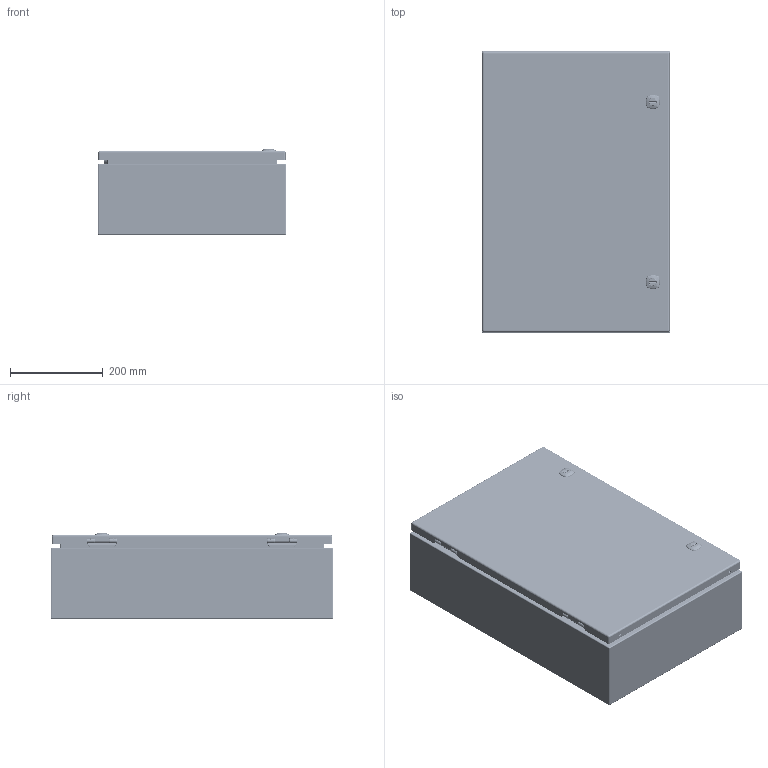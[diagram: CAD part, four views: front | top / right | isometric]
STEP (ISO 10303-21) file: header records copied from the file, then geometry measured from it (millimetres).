
FILE_DESCRIPTION(/* description */ ('5412ES 24" x 16" x 6" Assembly'),/* implementation_level */ '2;1');
FILE_NAME(/* name */ 'C:\Vault_Workspace\Inventor_Dwg\BoxCad\Result\5412ESB241606\e-mail\3D\5412ESB241606.stp',/* time_stamp */ '2022-03-14T17:11:22-04:00',/* author */ ('BoxCad'),/* organization */ (''),/* preprocessor_version */ 'ST-DEVELOPER v18.1',/* originating_system */ 'Autodesk Inventor 2020',/* authorisation */ '');
FILE_SCHEMA (('AUTOMOTIVE_DESIGN { 1 0 10303 214 3 1 1 }'));
Products named in the file (44): 5412ESB241606; 5412ESB241606B; 5412ESB241606B-P; STK-Q-16005; STUD_M6 x 16mm; STK-Q-07610; 881SP2416G; 881SP2416G-P; STK-Q-07310; 5412ESB241606C; 5412ESB241606C-P; 5412ESB241606G; STK-K-09800; STK-K-09800-2; STK-Q-33014; STK-Q-90398; STK-Q-40095; STK-Q-63410; STK-Q-16055; STK-Q-46020-24; STK-Q-07220-1; STK-Q-07220-2; STK-Q-07220-3; STK-Q-07220-4; STK-Q-07220-A; STK-Q-07220-B; STK-P-03820R; STK-S-00100; STK-A-880SCQ4-SL-1; STK-A-880SCQ4-SL-2; STK-Q-78110; STK-Q-78120; STK-Q-78145; STK-Q-03200; STK-Q-78125; STK-Q-78141; STK-Q-90390; STK-Q-78160; STK-Q-04050-07; STK-Q-04050-07-2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
Assembly tree (81 placements, depth 4):
  5412ESB241606
    5412ESB241606B
      5412ESB241606B-P
      STK-Q-16005  x4
      STK-P-03820R
      STUD_M6 x 16mm
    STK-Q-07610  x4
    881SP2416G
      881SP2416G-P
    STK-Q-07310  x4
    5412ESB241606C
      5412ESB241606C-P
      5412ESB241606G
      STK-K-09800
        STK-Q-33014
        STK-Q-90398
        STK-Q-40095  x2
        STK-Q-63410  x2
      STK-K-09800-2
        STK-Q-33014
        STK-Q-90398
        STK-Q-40095  x2
        STK-Q-63410  x2
      STK-Q-16055  x4
      STK-Q-46020-24  x2
      STK-Q-07220-1
        STK-Q-07220-A
        STK-Q-07220-B
      STK-Q-07220-2
        STK-Q-07220-A
        STK-Q-07220-B
      STK-Q-07220-3
        STK-Q-07220-A
        STK-Q-07220-B
      STK-Q-07220-4
        STK-Q-07220-A
        STK-Q-07220-B
      STK-P-03820R
      STK-S-00100
      STK-A-880SCQ4-SL-1
        STK-Q-78110
        STK-Q-78120
        STK-Q-78145
        STK-Q-03200
        STK-Q-78125
        STK-Q-78141
        STK-Q-90390
        STK-Q-78160
      STK-A-880SCQ4-SL-2
        STK-Q-78110
        STK-Q-78120
        STK-Q-78145
        STK-Q-03200
        STK-Q-78125
        STK-Q-78141
        STK-Q-90390
        STK-Q-78160
    STK-Q-04050-07
      STK-Q-04050-07-P
      STK-Q-04050-N
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Bounding box: 406.47 x 609.6 x 185.55 mm (x, y, z)
Volume: 2025505.9 mm3; surface area: 2505318.7 mm2
Topology: 64 solids, 64 shells, 9656 faces, 25916 edges, 16457 vertices
Faces by surface type: bspline 3404, plane 2761, cylinder 2500, torus 631, sphere 184, cone 176
Full cylindrical faces by diameter (mm): 0 x1, 0.75 x9, 0.762 x9, 1 x8, 1.1 x8, 3.2 x4, 4.191 x40, 4.5 x4, 4.521 x8, 4.75 x2, 4.85 x16, 4.95 x4, 5 x4, 5.1 x36, 5.156 x4, 5.6 x2, 5.9 x29, 6.015 x40, 6.65 x4, 6.8 x4, 6.85 x16, 7.3 x2, 7.366 x4, 7.9 x8, 8 x12, 8.382 x2, 9.5 x4, 9.6 x2, 9.906 x4, 10 x2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
Entity records: 154892 total; most frequent: CARTESIAN_POINT 63872, ORIENTED_EDGE 20830, DIRECTION 15141, EDGE_CURVE 10415, VERTEX_POINT 6595, AXIS2_PLACEMENT_3D 5552, EDGE_LOOP 4242, LINE 4037
